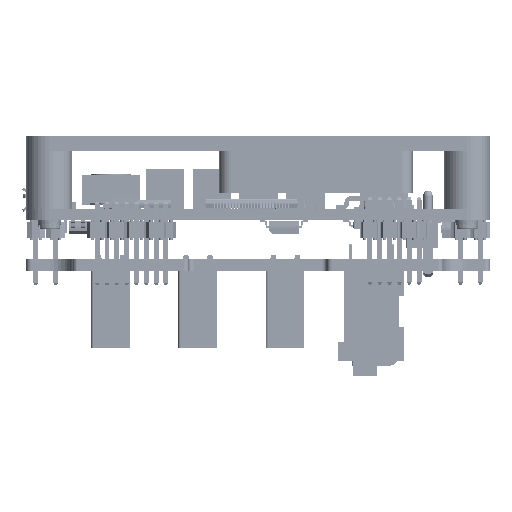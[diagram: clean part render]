
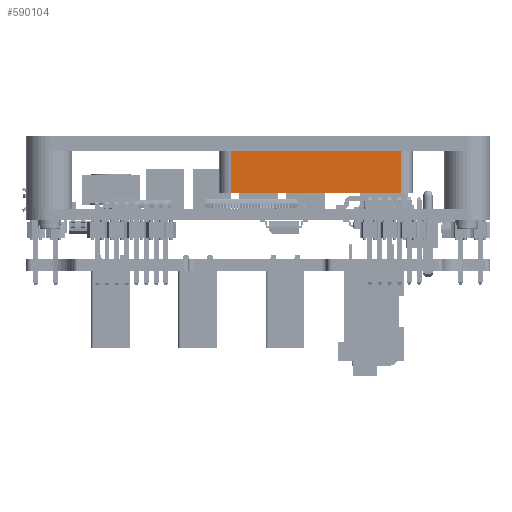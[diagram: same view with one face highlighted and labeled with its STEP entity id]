
A CAD part, front view. The second image highlights one B-rep face of the part: STEP entity #590104.
In plain terms, the highlighted planar face has unit normal (0, -1, 0) as drawn and (0, 0, -1) by its records, which use the part's own axes.
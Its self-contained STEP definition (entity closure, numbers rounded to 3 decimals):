
#45155 = VECTOR ( 'NONE', #128233, 1000. ) ;
#76740 = VECTOR ( 'NONE', #464360, 1000. ) ;
#87754 = CARTESIAN_POINT ( 'NONE',  ( -3.5, 2., -5. ) ) ;
#98805 = CARTESIAN_POINT ( 'NONE',  ( -3.5, 7.4, -5. ) ) ;
#111942 = VERTEX_POINT ( 'NONE', #263964 ) ;
#126261 = CARTESIAN_POINT ( 'NONE',  ( -3.5, 44.855, -5. ) ) ;
#128233 = DIRECTION ( 'NONE',  ( 1., 0., 0. ) ) ;
#170620 = VECTOR ( 'NONE', #415775, 1000. ) ;
#202882 = LINE ( 'NONE', #126261, #76740 ) ;
#232483 = CARTESIAN_POINT ( 'NONE',  ( 20., 7.4, -5. ) ) ;
#252106 = LINE ( 'NONE', #353779, #170620 ) ;
#263964 = CARTESIAN_POINT ( 'NONE',  ( 18.5, 7.4, -5. ) ) ;
#270572 = AXIS2_PLACEMENT_3D ( 'NONE', #313373, #414914, #410860 ) ;
#274854 = EDGE_LOOP ( 'NONE', ( #501287, #512329, #317803, #287255 ) ) ;
#277338 = LINE ( 'NONE', #232483, #292164 ) ;
#287255 = ORIENTED_EDGE ( 'NONE', *, *, #315840, .F. ) ;
#292164 = VECTOR ( 'NONE', #323815, 1000. ) ;
#313373 = CARTESIAN_POINT ( 'NONE',  ( 20., 44.855, -5. ) ) ;
#315840 = EDGE_CURVE ( 'NONE', #472517, #111942, #252106, .T. ) ;
#317803 = ORIENTED_EDGE ( 'NONE', *, *, #587809, .T. ) ;
#323815 = DIRECTION ( 'NONE',  ( 1., 0., 0. ) ) ;
#338090 = CARTESIAN_POINT ( 'NONE',  ( 18.5, 2., -5. ) ) ;
#353779 = CARTESIAN_POINT ( 'NONE',  ( 18.5, 4.7, -5. ) ) ;
#367195 = PLANE ( 'NONE',  #270572 ) ;
#410860 = DIRECTION ( 'NONE',  ( 1., 0., 0. ) ) ;
#414914 = DIRECTION ( 'NONE',  ( 0., 0., 1. ) ) ;
#415775 = DIRECTION ( 'NONE',  ( 0., 1., 0. ) ) ;
#416650 = LINE ( 'NONE', #562007, #45155 ) ;
#464360 = DIRECTION ( 'NONE',  ( 0., 1., 0. ) ) ;
#472517 = VERTEX_POINT ( 'NONE', #338090 ) ;
#501287 = ORIENTED_EDGE ( 'NONE', *, *, #603859, .F. ) ;
#502751 = VERTEX_POINT ( 'NONE', #98805 ) ;
#512329 = ORIENTED_EDGE ( 'NONE', *, *, #529456, .T. ) ;
#527013 = VERTEX_POINT ( 'NONE', #87754 ) ;
#529456 = EDGE_CURVE ( 'NONE', #527013, #502751, #202882, .T. ) ;
#547325 = FACE_OUTER_BOUND ( 'NONE', #274854, .T. ) ;
#562007 = CARTESIAN_POINT ( 'NONE',  ( -27.05, 2., -5. ) ) ;
#587809 = EDGE_CURVE ( 'NONE', #502751, #111942, #277338, .T. ) ;
#590104 = ADVANCED_FACE ( 'NONE', ( #547325 ), #367195, .F. ) ;
#603859 = EDGE_CURVE ( 'NONE', #527013, #472517, #416650, .T. ) ;
